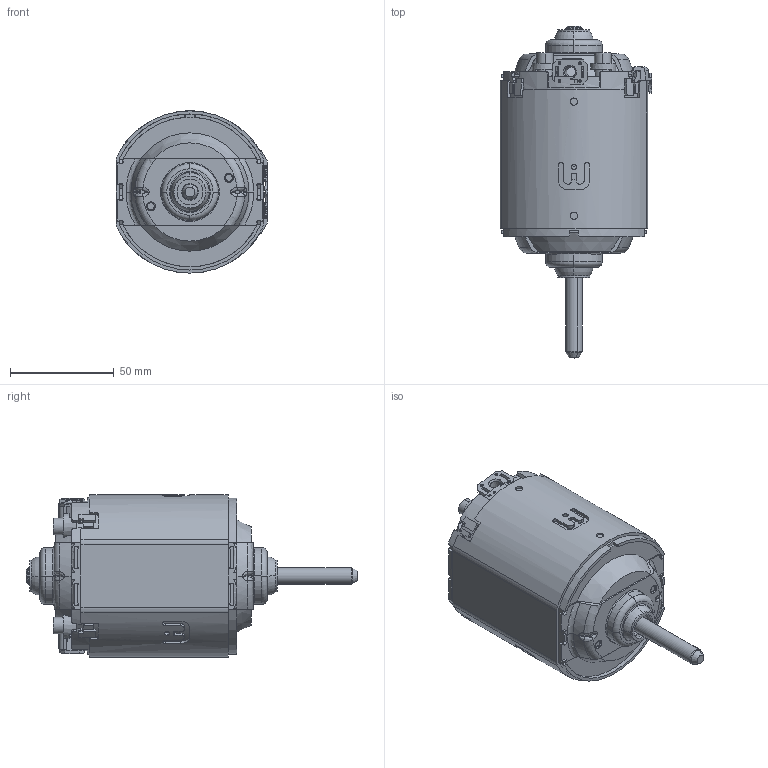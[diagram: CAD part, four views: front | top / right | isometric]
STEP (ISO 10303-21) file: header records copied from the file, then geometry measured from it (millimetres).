
FILE_DESCRIPTION(('CATIA V5 STEP Exchange'),'2;1');
FILE_NAME('Y:\EHC12\EHC1\USER\EHC_Timar_Zoltan\DPO-Dummys\for AA\0 130 115 352_dummy_for_AA.stp','2012-06-18T14:26:51+00:00',('none'),('none'),'CATIA Version 5 Release 19 SP 3 (IN-10)','CATIA V5 STEP AP214','none');
FILE_SCHEMA(('AUTOMOTIVE_DESIGN { 1 0 10303 214 1 1 1 1 }'));
Products named in the file (1): 0 130 115 352_AllCATPart
Bounding box: 73 x 160 x 78.2 mm (x, y, z)
Volume: 400529 mm3; surface area: 43816.6 mm2
Topology: 1 solids, 5 shells, 1657 faces, 4746 edges, 3072 vertices
Faces by surface type: plane 907, cylinder 410, cone 144, torus 94, bspline 54, extrusion 32, sphere 16
Entity records: 56554 total; most frequent: CARTESIAN_POINT 18160, ORIENTED_EDGE 9500, DIRECTION 5553, EDGE_CURVE 4750, VERTEX_POINT 3072, VECTOR 2360, LINE 2328, AXIS2_PLACEMENT_3D 2081
